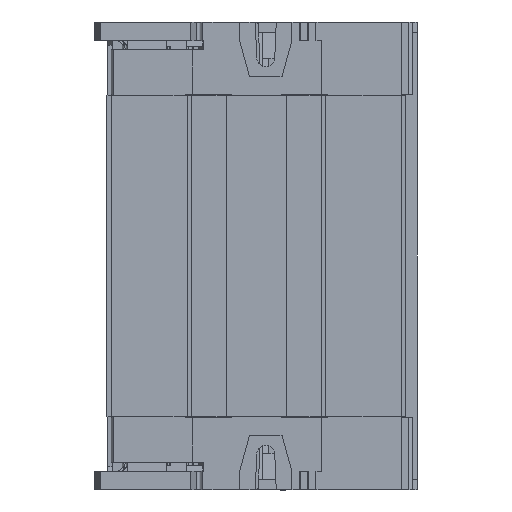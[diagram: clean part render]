
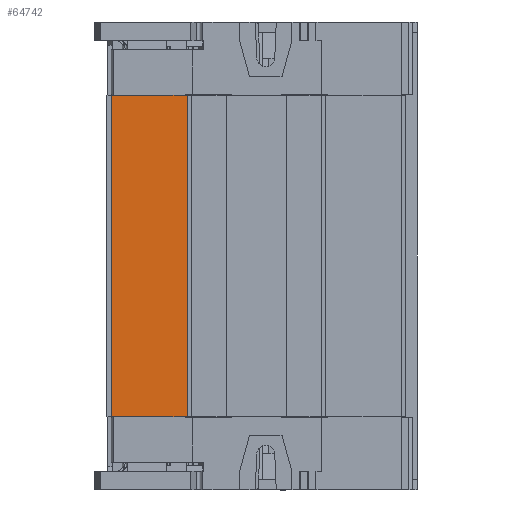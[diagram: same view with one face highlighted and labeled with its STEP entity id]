
A CAD part, front view. The second image highlights one B-rep face of the part: STEP entity #64742.
In plain terms, the highlighted planar face has unit normal (0, -1, 0).
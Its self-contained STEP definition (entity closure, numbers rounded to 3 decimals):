
#2795 = LINE ( 'NONE', #79510, #50904 ) ;
#14851 = DIRECTION ( 'NONE',  ( 1., 0., 0. ) ) ;
#19760 = VECTOR ( 'NONE', #121910, 1000. ) ;
#22149 = AXIS2_PLACEMENT_3D ( 'NONE', #27063, #98571, #37379 ) ;
#26614 = PLANE ( 'NONE',  #22149 ) ;
#27063 = CARTESIAN_POINT ( 'NONE',  ( 1.05, -36.35, -106.35 ) ) ;
#30449 = LINE ( 'NONE', #76046, #112010 ) ;
#35565 = CARTESIAN_POINT ( 'NONE',  ( 1.05, -36.35, -17.35 ) ) ;
#37379 = DIRECTION ( 'NONE',  ( 0., 0., -1. ) ) ;
#37651 = EDGE_CURVE ( 'NONE', #42736, #75485, #2795, .T. ) ;
#41388 = CARTESIAN_POINT ( 'NONE',  ( 22.05, -36.35, -106.35 ) ) ;
#42736 = VERTEX_POINT ( 'NONE', #41388 ) ;
#43846 = LINE ( 'NONE', #50418, #19760 ) ;
#45619 = CARTESIAN_POINT ( 'NONE',  ( 22.05, -36.35, -17.35 ) ) ;
#50418 = CARTESIAN_POINT ( 'NONE',  ( 1.05, -36.35, -17.35 ) ) ;
#50904 = VECTOR ( 'NONE', #89844, 1000. ) ;
#51034 = VERTEX_POINT ( 'NONE', #103952 ) ;
#53199 = DIRECTION ( 'NONE',  ( 0., 0., -1. ) ) ;
#57259 = EDGE_CURVE ( 'NONE', #75485, #102533, #43846, .T. ) ;
#64742 = ADVANCED_FACE ( 'NONE', ( #85341 ), #26614, .T. ) ;
#75485 = VERTEX_POINT ( 'NONE', #45619 ) ;
#76046 = CARTESIAN_POINT ( 'NONE',  ( 1.05, -36.35, -106.35 ) ) ;
#79510 = CARTESIAN_POINT ( 'NONE',  ( 22.05, -36.35, -106.35 ) ) ;
#81945 = VECTOR ( 'NONE', #53199, 1000. ) ;
#82455 = EDGE_LOOP ( 'NONE', ( #115356, #103278, #87924, #107772 ) ) ;
#85341 = FACE_OUTER_BOUND ( 'NONE', #82455, .T. ) ;
#87924 = ORIENTED_EDGE ( 'NONE', *, *, #37651, .T. ) ;
#89844 = DIRECTION ( 'NONE',  ( 0., 0., 1. ) ) ;
#98571 = DIRECTION ( 'NONE',  ( 0., -1., 0. ) ) ;
#102533 = VERTEX_POINT ( 'NONE', #35565 ) ;
#103278 = ORIENTED_EDGE ( 'NONE', *, *, #104667, .T. ) ;
#103952 = CARTESIAN_POINT ( 'NONE',  ( 1.05, -36.35, -106.35 ) ) ;
#104175 = CARTESIAN_POINT ( 'NONE',  ( 1.05, -36.35, -106.35 ) ) ;
#104667 = EDGE_CURVE ( 'NONE', #51034, #42736, #30449, .T. ) ;
#107772 = ORIENTED_EDGE ( 'NONE', *, *, #57259, .T. ) ;
#109121 = LINE ( 'NONE', #104175, #81945 ) ;
#109781 = EDGE_CURVE ( 'NONE', #102533, #51034, #109121, .T. ) ;
#112010 = VECTOR ( 'NONE', #14851, 1000. ) ;
#115356 = ORIENTED_EDGE ( 'NONE', *, *, #109781, .T. ) ;
#121910 = DIRECTION ( 'NONE',  ( -1., 0., 0. ) ) ;
